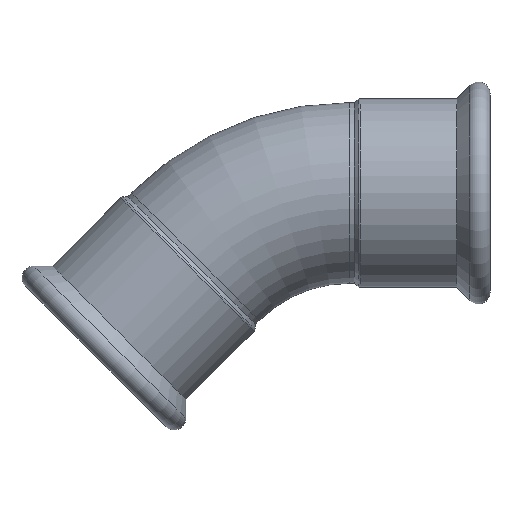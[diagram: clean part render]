
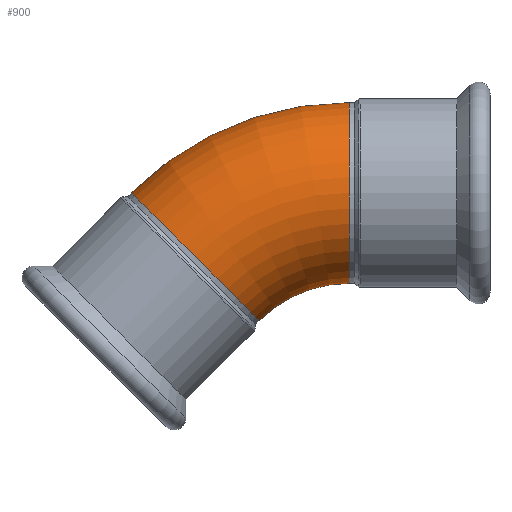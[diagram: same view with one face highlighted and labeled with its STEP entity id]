
A CAD part, top view. The second image highlights one B-rep face of the part: STEP entity #900.
In plain terms, the highlighted toroidal (fillet/blend) face has major radius 130 mm and minor radius 54 mm.
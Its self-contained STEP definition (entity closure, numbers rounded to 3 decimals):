
#430=CARTESIAN_POINT('',(0.848,-130.,0.));
#440=DIRECTION('',(0.,0.,1.));
#450=DIRECTION('',(0.,1.,0.));
#460=AXIS2_PLACEMENT_3D('',#430,#440,#450);
#470=TOROIDAL_SURFACE('',#460,130.,54.);
#480=CARTESIAN_POINT('',(-91.076,-38.076,0.));
#490=DIRECTION('',(-0.707,-0.707,0.));
#500=DIRECTION('',(0.707,-0.707,0.));
#510=AXIS2_PLACEMENT_3D('',#480,#490,#500);
#520=CIRCLE('',#510,54.);
#530=CARTESIAN_POINT('',(-91.076,-38.076,54.));
#540=VERTEX_POINT('',#530);
#550=CARTESIAN_POINT('',(-129.26,0.108,
0.));
#560=VERTEX_POINT('',#550);
#570=EDGE_CURVE('',#540,#560,#520,.T.);
#580=ORIENTED_EDGE('',*,*,#570,.F.);
#590=CARTESIAN_POINT('',(0.848,-130.,0.));
#600=DIRECTION('',(0.,0.,1.));
#610=DIRECTION('',(0.,1.,0.));
#620=AXIS2_PLACEMENT_3D('',#590,#600,#610);
#630=CIRCLE('',#620,184.);
#640=CARTESIAN_POINT('',(0.848,54.,0.));
#650=VERTEX_POINT('',#640);
#660=EDGE_CURVE('',#650,#560,#630,.T.);
#670=ORIENTED_EDGE('',*,*,#660,.T.);
#680=CARTESIAN_POINT('',(0.848,0.,0.));
#690=DIRECTION('',(-1.,0.,0.));
#700=DIRECTION('',(0.,-1.,0.));
#710=AXIS2_PLACEMENT_3D('',#680,#690,#700);
#720=CIRCLE('',#710,54.);
#730=CARTESIAN_POINT('',(0.848,-54.,0.));
#740=VERTEX_POINT('',#730);
#750=EDGE_CURVE('',#740,#650,#720,.T.);
#760=ORIENTED_EDGE('',*,*,#750,.T.);
#770=CARTESIAN_POINT('',(0.848,-130.,0.));
#780=DIRECTION('',(0.,0.,1.));
#790=DIRECTION('',(0.,1.,0.));
#800=AXIS2_PLACEMENT_3D('',#770,#780,#790);
#810=CIRCLE('',#800,76.);
#820=CARTESIAN_POINT('',(-52.892,-76.26,0.));
#830=VERTEX_POINT('',#820);
#840=EDGE_CURVE('',#740,#830,#810,.T.);
#850=ORIENTED_EDGE('',*,*,#840,.F.);
#860=EDGE_CURVE('',#830,#540,#520,.T.);
#870=ORIENTED_EDGE('',*,*,#860,.F.);
#880=EDGE_LOOP('',(#870,#850,#760,#670,#580));
#890=FACE_OUTER_BOUND('',#880,.T.);
#900=ADVANCED_FACE('',(#890),#470,.T.);
